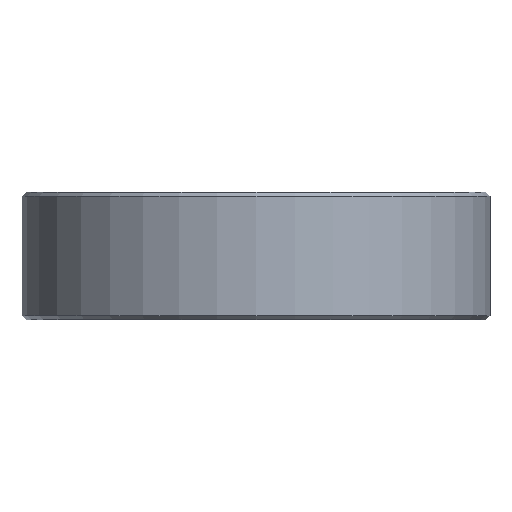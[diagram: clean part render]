
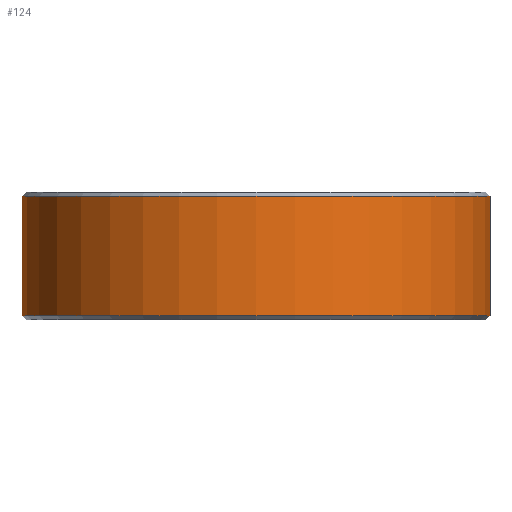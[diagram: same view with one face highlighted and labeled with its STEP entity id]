
A CAD part, front view. The second image highlights one B-rep face of the part: STEP entity #124.
In plain terms, the highlighted cylindrical face has radius 27.5 mm (diameter 55 mm), a partial arc.
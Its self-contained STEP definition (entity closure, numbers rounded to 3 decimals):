
#124 = ADVANCED_FACE( '', ( #259 ), #260, .T. );
#259 = FACE_OUTER_BOUND( '', #403, .T. );
#260 = CYLINDRICAL_SURFACE( '', #404, 27.5 );
#403 = EDGE_LOOP( '', ( #752, #753, #754, #755 ) );
#404 = AXIS2_PLACEMENT_3D( '', #756, #757, #758 );
#752 = ORIENTED_EDGE( '', *, *, #913, .T. );
#753 = ORIENTED_EDGE( '', *, *, #813, .T. );
#754 = ORIENTED_EDGE( '', *, *, #910, .F. );
#755 = ORIENTED_EDGE( '', *, *, #914, .T. );
#756 = CARTESIAN_POINT( '', ( 0., 0., 7.5 ) );
#757 = DIRECTION( '', ( 0., 0., -1. ) );
#758 = DIRECTION( '', ( 1., 0., 0. ) );
#813 = EDGE_CURVE( '', #929, #927, #930, .T. );
#910 = EDGE_CURVE( '', #1099, #927, #1100, .T. );
#913 = EDGE_CURVE( '', #1104, #929, #1105, .T. );
#914 = EDGE_CURVE( '', #1099, #1104, #1106, .F. );
#927 = VERTEX_POINT( '', #1124 );
#929 = VERTEX_POINT( '', #1129 );
#930 = LINE( '', #1130, #1131 );
#1099 = VERTEX_POINT( '', #1545 );
#1100 = CIRCLE( '', #1546, 27.5 );
#1104 = VERTEX_POINT( '', #1553 );
#1105 = CIRCLE( '', #1554, 27.5 );
#1106 = LINE( '', #1555, #1556 );
#1124 = CARTESIAN_POINT( '', ( 27.459, -1.5, 7. ) );
#1129 = CARTESIAN_POINT( '', ( 27.459, -1.5, -7. ) );
#1130 = CARTESIAN_POINT( '', ( 27.459, -1.5, 7.5 ) );
#1131 = VECTOR( '', #1569, 1000. );
#1545 = CARTESIAN_POINT( '', ( -27.459, -1.5, 7. ) );
#1546 = AXIS2_PLACEMENT_3D( '', #1722, #1723, #1724 );
#1553 = CARTESIAN_POINT( '', ( -27.459, -1.5, -7. ) );
#1554 = AXIS2_PLACEMENT_3D( '', #1728, #1729, #1730 );
#1555 = CARTESIAN_POINT( '', ( -27.459, -1.5, 7.5 ) );
#1556 = VECTOR( '', #1731, 1000. );
#1569 = DIRECTION( '', ( 0., 0., 1. ) );
#1722 = CARTESIAN_POINT( '', ( 0., 0., 7. ) );
#1723 = DIRECTION( '', ( 0., 0., 1. ) );
#1724 = DIRECTION( '', ( 1., 0., 0. ) );
#1728 = CARTESIAN_POINT( '', ( 0., 0., -7. ) );
#1729 = DIRECTION( '', ( 0., 0., 1. ) );
#1730 = DIRECTION( '', ( 1., 0., 0. ) );
#1731 = DIRECTION( '', ( 0., 0., 1. ) );
